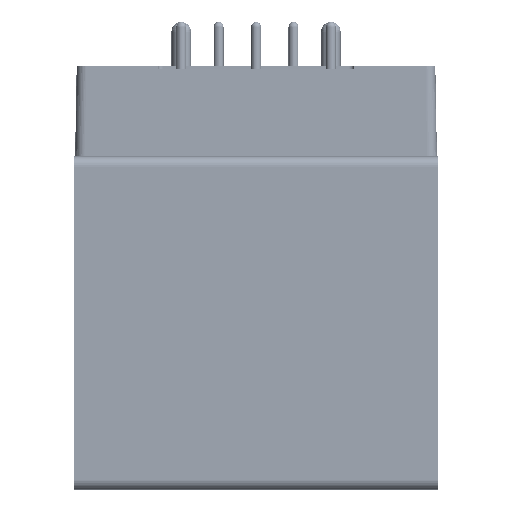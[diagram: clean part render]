
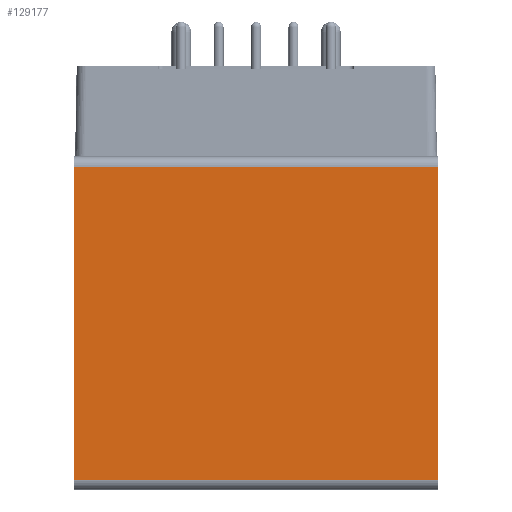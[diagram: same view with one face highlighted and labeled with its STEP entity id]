
A CAD part, left-side view. The second image highlights one B-rep face of the part: STEP entity #129177.
In plain terms, the highlighted planar face has unit normal (-1, 0, 0) as drawn and (1, 0, 0) by its records, which use the part's own axes.
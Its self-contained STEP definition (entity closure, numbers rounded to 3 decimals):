
#20612=PLANE($,#142702);
#28328=FACE_OUTER_BOUND($,#36885,.T.);
#36885=EDGE_LOOP($,(#120080,#120081,#120082,#120083));
#45257=LINE($,#236343,#53622);
#45258=LINE($,#236347,#53623);
#45259=LINE($,#236349,#53624);
#45260=LINE($,#236350,#53625);
#53622=VECTOR($,#177791,37.);
#53623=VECTOR($,#177796,31.9);
#53624=VECTOR($,#177797,37.);
#53625=VECTOR($,#177798,31.9);
#65738=VERTEX_POINT($,#236340);
#65739=VERTEX_POINT($,#236342);
#65740=VERTEX_POINT($,#236346);
#65741=VERTEX_POINT($,#236348);
#82877=EDGE_CURVE($,#65739,#65738,#45257,.T.);
#82879=EDGE_CURVE($,#65738,#65740,#45258,.T.);
#82880=EDGE_CURVE($,#65741,#65740,#45259,.T.);
#82881=EDGE_CURVE($,#65739,#65741,#45260,.T.);
#120080=ORIENTED_EDGE($,*,*,#82879,.T.);
#120081=ORIENTED_EDGE($,*,*,#82880,.F.);
#120082=ORIENTED_EDGE($,*,*,#82881,.F.);
#120083=ORIENTED_EDGE($,*,*,#82877,.T.);
#129177=ADVANCED_FACE($,(#28328),#20612,.F.);
#142702=AXIS2_PLACEMENT_3D($,#236345,#177794,#177795);
#177791=DIRECTION($,(0.,0.,-1.));
#177794=DIRECTION('center_axis',(-1.,0.,0.));
#177795=DIRECTION('ref_axis',(0.,0.,1.));
#177796=DIRECTION($,(0.,1.,0.));
#177797=DIRECTION($,(0.,0.,-1.));
#177798=DIRECTION($,(0.,1.,0.));
#236340=CARTESIAN_POINT('',(31.6,-7.55,-18.5));
#236342=CARTESIAN_POINT('',(31.6,-7.55,18.5));
#236343=CARTESIAN_POINT($,(31.6,-7.55,18.5));
#236345=CARTESIAN_POINT('Origin',(31.6,24.35,18.5));
#236346=CARTESIAN_POINT('',(31.6,24.35,-18.5));
#236347=CARTESIAN_POINT($,(31.6,24.35,-18.5));
#236348=CARTESIAN_POINT('',(31.6,24.35,18.5));
#236349=CARTESIAN_POINT($,(31.6,24.35,18.5));
#236350=CARTESIAN_POINT($,(31.6,24.35,18.5));
